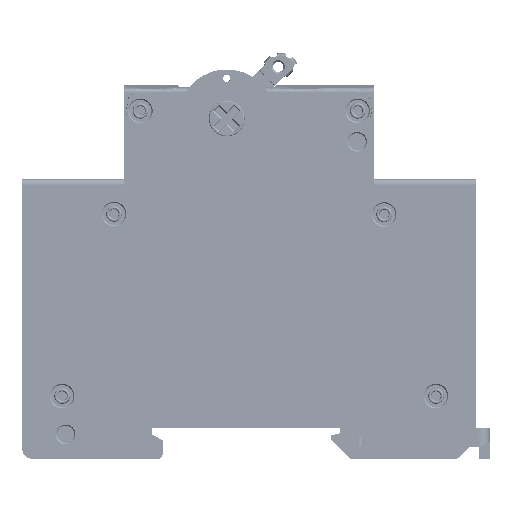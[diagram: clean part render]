
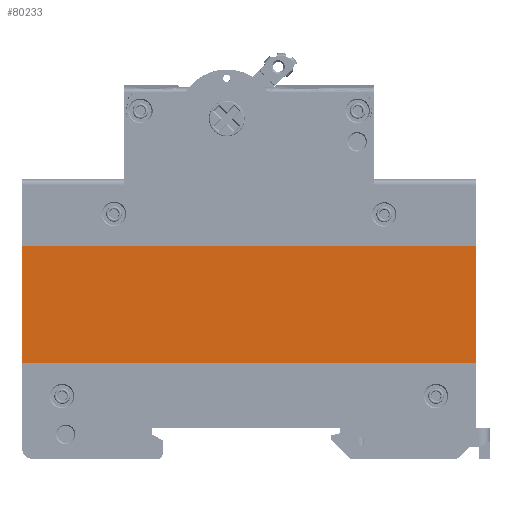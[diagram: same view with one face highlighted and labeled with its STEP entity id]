
A CAD part, left-side view. The second image highlights one B-rep face of the part: STEP entity #80233.
In plain terms, the highlighted planar face has unit normal (-1, 0, 0) as drawn and (0, 0, 1) by its records, which use the part's own axes.
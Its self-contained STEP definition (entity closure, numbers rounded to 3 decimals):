
#1262 = ORIENTED_EDGE ( 'NONE', *, *, #232957, .F. ) ;
#5811 = EDGE_CURVE ( 'NONE', #103542, #6085, #106408, .T. ) ;
#6085 = VERTEX_POINT ( 'NONE', #123953 ) ;
#7547 = DIRECTION ( 'NONE',  ( 0., 1., 0. ) ) ;
#9516 = VERTEX_POINT ( 'NONE', #117640 ) ;
#35231 = EDGE_CURVE ( 'NONE', #9516, #103542, #253489, .T. ) ;
#36958 = AXIS2_PLACEMENT_3D ( 'NONE', #241589, #172048, #142989 ) ;
#37934 = EDGE_LOOP ( 'NONE', ( #301203, #116915, #119326, #1262 ) ) ;
#68702 = CARTESIAN_POINT ( 'NONE',  ( 29.193, -24.507, 8.416 ) ) ;
#80233 = ADVANCED_FACE ( 'NONE', ( #194780 ), #196350, .F. ) ;
#81532 = CARTESIAN_POINT ( 'NONE',  ( 29.193, -3.507, 8.416 ) ) ;
#86787 = VECTOR ( 'NONE', #182458, 1000. ) ;
#88160 = LINE ( 'NONE', #68702, #231980 ) ;
#95689 = EDGE_CURVE ( 'NONE', #294128, #9516, #88160, .T. ) ;
#103542 = VERTEX_POINT ( 'NONE', #124582 ) ;
#106408 = LINE ( 'NONE', #256767, #86787 ) ;
#116915 = ORIENTED_EDGE ( 'NONE', *, *, #35231, .F. ) ;
#117640 = CARTESIAN_POINT ( 'NONE',  ( -52.307, -24.507, 8.416 ) ) ;
#119326 = ORIENTED_EDGE ( 'NONE', *, *, #95689, .F. ) ;
#123953 = CARTESIAN_POINT ( 'NONE',  ( 29.193, -3.507, 8.416 ) ) ;
#124582 = CARTESIAN_POINT ( 'NONE',  ( -52.307, -3.507, 8.416 ) ) ;
#135400 = CARTESIAN_POINT ( 'NONE',  ( -52.307, -24.507, 8.416 ) ) ;
#142835 = VECTOR ( 'NONE', #7547, 1000. ) ;
#142989 = DIRECTION ( 'NONE',  ( -1., 0., 0. ) ) ;
#149521 = DIRECTION ( 'NONE',  ( -1., 0., 0. ) ) ;
#158679 = CARTESIAN_POINT ( 'NONE',  ( 29.193, -24.507, 8.416 ) ) ;
#172048 = DIRECTION ( 'NONE',  ( 0., 0., -1. ) ) ;
#182458 = DIRECTION ( 'NONE',  ( 1., 0., 0. ) ) ;
#194780 = FACE_OUTER_BOUND ( 'NONE', #37934, .T. ) ;
#196350 = PLANE ( 'NONE',  #36958 ) ;
#207401 = VECTOR ( 'NONE', #230326, 1000. ) ;
#230326 = DIRECTION ( 'NONE',  ( 0., -1., 0. ) ) ;
#231980 = VECTOR ( 'NONE', #149521, 1000. ) ;
#232957 = EDGE_CURVE ( 'NONE', #6085, #294128, #260919, .T. ) ;
#241589 = CARTESIAN_POINT ( 'NONE',  ( -15.557, 19.418, 8.416 ) ) ;
#253489 = LINE ( 'NONE', #135400, #142835 ) ;
#256767 = CARTESIAN_POINT ( 'NONE',  ( -52.307, -3.507, 8.416 ) ) ;
#260919 = LINE ( 'NONE', #81532, #207401 ) ;
#294128 = VERTEX_POINT ( 'NONE', #158679 ) ;
#301203 = ORIENTED_EDGE ( 'NONE', *, *, #5811, .F. ) ;
